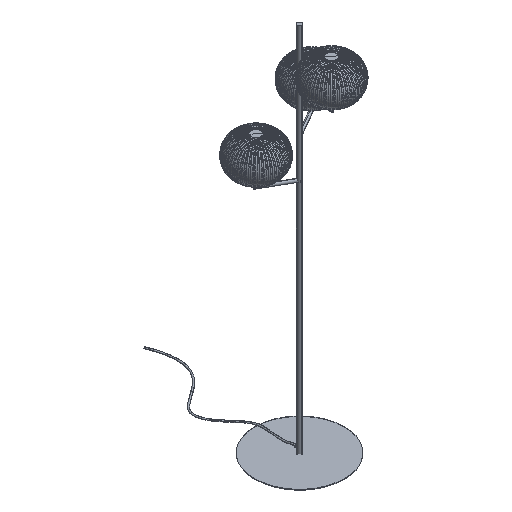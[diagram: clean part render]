
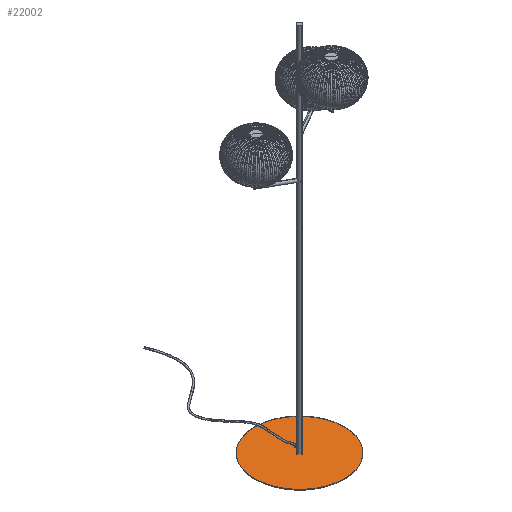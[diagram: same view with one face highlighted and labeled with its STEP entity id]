
A CAD part, isometric view. The second image highlights one B-rep face of the part: STEP entity #22002.
In plain terms, the highlighted planar face has unit normal (0, 0, 1).
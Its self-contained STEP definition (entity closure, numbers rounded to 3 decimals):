
#1891 = EDGE_CURVE ( 'NONE', #33175, #4716, #12863, .T. ) ;
#3937 = CARTESIAN_POINT ( 'NONE',  ( 0., -175., 3. ) ) ;
#4716 = VERTEX_POINT ( 'NONE', #3937 ) ;
#7020 = DIRECTION ( 'NONE',  ( 0., 0., 1. ) ) ;
#9093 = CARTESIAN_POINT ( 'NONE',  ( 0., 175., 3. ) ) ;
#9779 = AXIS2_PLACEMENT_3D ( 'NONE', #23189, #38230, #42703 ) ;
#11176 = DIRECTION ( 'NONE',  ( 0., -1., 0. ) ) ;
#12146 = EDGE_CURVE ( 'NONE', #4716, #22955, #60745, .T. ) ;
#12863 = CIRCLE ( 'NONE', #9779, 175. ) ;
#22002 = ADVANCED_FACE ( 'NONE', ( #25936 ), #51194, .T. ) ;
#22955 = VERTEX_POINT ( 'NONE', #45987 ) ;
#23189 = CARTESIAN_POINT ( 'NONE',  ( 0., 0., 3. ) ) ;
#25936 = FACE_OUTER_BOUND ( 'NONE', #29779, .T. ) ;
#26201 = ORIENTED_EDGE ( 'NONE', *, *, #12146, .T. ) ;
#26539 = CARTESIAN_POINT ( 'NONE',  ( 0., 0., 3. ) ) ;
#28588 = EDGE_CURVE ( 'NONE', #22955, #33175, #62165, .T. ) ;
#28902 = AXIS2_PLACEMENT_3D ( 'NONE', #36178, #50876, #60466 ) ;
#29779 = EDGE_LOOP ( 'NONE', ( #26201, #33815, #51004 ) ) ;
#33175 = VERTEX_POINT ( 'NONE', #9093 ) ;
#33815 = ORIENTED_EDGE ( 'NONE', *, *, #28588, .T. ) ;
#36178 = CARTESIAN_POINT ( 'NONE',  ( -218.75, 218.75, 3. ) ) ;
#38230 = DIRECTION ( 'NONE',  ( 0., 0., 1. ) ) ;
#42703 = DIRECTION ( 'NONE',  ( 0., 1., 0. ) ) ;
#42763 = AXIS2_PLACEMENT_3D ( 'NONE', #26539, #7020, #11176 ) ;
#43196 = DIRECTION ( 'NONE',  ( 0., -1., 0. ) ) ;
#45987 = CARTESIAN_POINT ( 'NONE',  ( 175., 0., 3. ) ) ;
#48306 = CARTESIAN_POINT ( 'NONE',  ( 0., 0., 3. ) ) ;
#50876 = DIRECTION ( 'NONE',  ( 0., 0., 1. ) ) ;
#51004 = ORIENTED_EDGE ( 'NONE', *, *, #1891, .T. ) ;
#51194 = PLANE ( 'NONE',  #28902 ) ;
#52479 = DIRECTION ( 'NONE',  ( 0., 0., 1. ) ) ;
#58698 = AXIS2_PLACEMENT_3D ( 'NONE', #48306, #52479, #43196 ) ;
#60466 = DIRECTION ( 'NONE',  ( 1., 0., 0. ) ) ;
#60745 = CIRCLE ( 'NONE', #58698, 175. ) ;
#62165 = CIRCLE ( 'NONE', #42763, 175. ) ;
